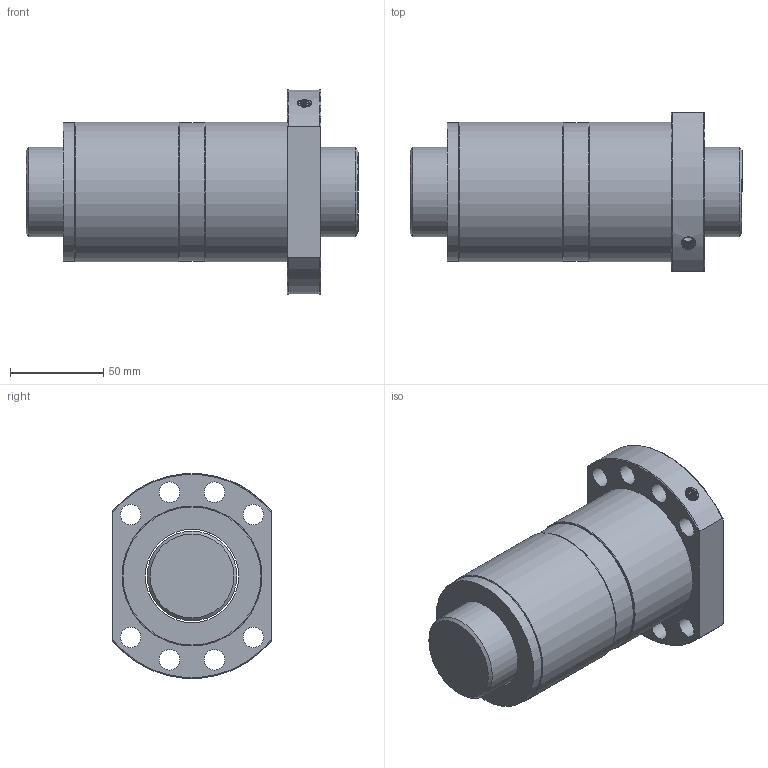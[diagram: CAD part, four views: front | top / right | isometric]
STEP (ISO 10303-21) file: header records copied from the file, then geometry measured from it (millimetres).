
FILE_DESCRIPTION(/* description */ ('Unknown','CAx-IF Rec.Pracs.---Representation and Presentation of Product Manufacturing Information (PMI)---4.0---2014-10-13','CAx-IF Rec.Pracs.---3D Tessellated Geometry---0.4---2014-09-14','2;1'),/* implementation_level */ '2;1');
FILE_NAME(/* name */ 'DFS05010',/* time_stamp */ '2020-12-08T12:01:00+08:00',/* author */ ('Unknown'),/* organization */ ('Unknown'),/* preprocessor_version */ 'ST-DEVELOPER v16.7',/* originating_system */ 'Solid Edge',/* authorisation */ 'Unknown');
FILE_SCHEMA (('AP242_MANAGED_MODEL_BASED_3D_ENGINEERING_MIM_LF { 1 0 10303 442 1 1 4 }'));
Length unit declared in the file: millimetre
Products named in the file (1): DFS05010
Bounding box: 178 x 85 x 109.65 mm (x, y, z)
Volume: 713826.6 mm3; surface area: 103195.6 mm2
Topology: 2 solids, 2 shells, 45 faces, 110 edges, 73 vertices
Faces by surface type: cylinder 20, plane 11, torus 9, cone 3, bspline 2
Full cylindrical faces by diameter (mm): 4 x1, 6.917 x1, 11 x8, 48 x1, 50 x1, 74.007 x2, 75 x2
Entity records: 3068 total; most frequent: CARTESIAN_POINT 2059, DIRECTION 198, ORIENTED_EDGE 150, AXIS2_PLACEMENT_3D 96, EDGE_LOOP 93, FACE_BOUND 93, EDGE_CURVE 75, VERTEX_POINT 62
